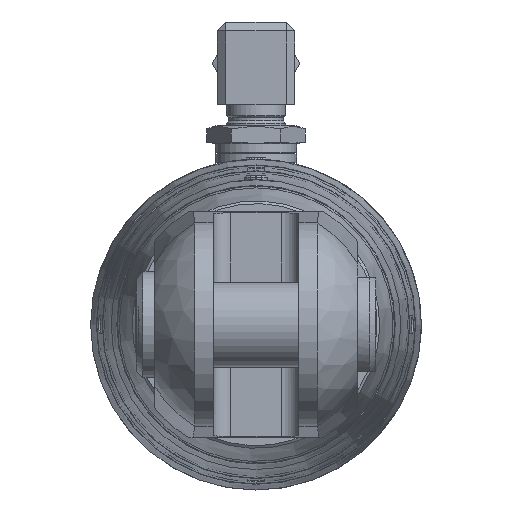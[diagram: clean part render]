
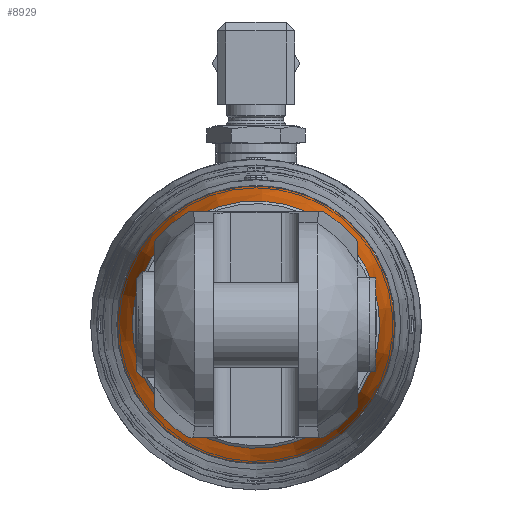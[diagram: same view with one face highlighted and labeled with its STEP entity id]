
A CAD part, left-side view. The second image highlights one B-rep face of the part: STEP entity #8929.
In plain terms, the highlighted conical face has half-angle 10 degrees and reference radius 29.424 mm.
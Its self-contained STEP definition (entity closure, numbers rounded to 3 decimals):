
#672=LINE('',#15595,#1245);
#1245=VECTOR('',#11720,29.424);
#1695=CONICAL_SURFACE('',#9757,29.424,0.175);
#2633=FACE_OUTER_BOUND('',#3165,.T.);
#3165=EDGE_LOOP('',(#7634,#7635,#7636,#7637,#7638,#7639));
#3639=CIRCLE('',#9755,31.101);
#3640=CIRCLE('',#9756,31.101);
#3641=CIRCLE('',#9758,27.748);
#3642=CIRCLE('',#9759,27.748);
#4401=VERTEX_POINT('',#15585);
#4402=VERTEX_POINT('',#15586);
#4403=VERTEX_POINT('',#15591);
#4404=VERTEX_POINT('',#15592);
#5527=EDGE_CURVE('',#4401,#4402,#3639,.T.);
#5528=EDGE_CURVE('',#4402,#4401,#3640,.T.);
#5530=EDGE_CURVE('',#4403,#4404,#3641,.T.);
#5531=EDGE_CURVE('',#4404,#4403,#3642,.T.);
#5532=EDGE_CURVE('',#4404,#4402,#672,.T.);
#7634=ORIENTED_EDGE('',*,*,#5530,.F.);
#7635=ORIENTED_EDGE('',*,*,#5531,.F.);
#7636=ORIENTED_EDGE('',*,*,#5532,.T.);
#7637=ORIENTED_EDGE('',*,*,#5527,.F.);
#7638=ORIENTED_EDGE('',*,*,#5528,.F.);
#7639=ORIENTED_EDGE('',*,*,#5532,.F.);
#8929=ADVANCED_FACE('',(#2633),#1695,.T.);
#9755=AXIS2_PLACEMENT_3D('',#15587,#11709,#11710);
#9756=AXIS2_PLACEMENT_3D('',#15588,#11711,#11712);
#9757=AXIS2_PLACEMENT_3D('',#15590,#11714,#11715);
#9758=AXIS2_PLACEMENT_3D('',#15593,#11716,#11717);
#9759=AXIS2_PLACEMENT_3D('',#15594,#11718,#11719);
#11709=DIRECTION('center_axis',(1.,0.,0.));
#11710=DIRECTION('ref_axis',(0.,0.605,0.796));
#11711=DIRECTION('center_axis',(1.,0.,0.));
#11712=DIRECTION('ref_axis',(0.,0.605,0.796));
#11714=DIRECTION('center_axis',(1.,0.,0.));
#11715=DIRECTION('ref_axis',(0.,-0.605,-0.796));
#11716=DIRECTION('center_axis',(-1.,0.,0.));
#11717=DIRECTION('ref_axis',(0.,0.605,0.796));
#11718=DIRECTION('center_axis',(-1.,0.,0.));
#11719=DIRECTION('ref_axis',(0.,0.605,0.796));
#11720=DIRECTION('',(0.985,0.105,0.138));
#15585=CARTESIAN_POINT('',(-1000.442,-18.827,-24.755));
#15586=CARTESIAN_POINT('',(-1000.442,18.827,24.755));
#15587=CARTESIAN_POINT('Origin',(-1000.442,0.,
0.));
#15588=CARTESIAN_POINT('Origin',(-1000.442,0.,
0.));
#15590=CARTESIAN_POINT('Origin',(-1009.95,0.,0.));
#15591=CARTESIAN_POINT('',(-1019.458,-16.797,-22.086));
#15592=CARTESIAN_POINT('',(-1019.458,16.797,22.086));
#15593=CARTESIAN_POINT('Origin',(-1019.458,0.,
0.));
#15594=CARTESIAN_POINT('Origin',(-1019.458,0.,
0.));
#15595=CARTESIAN_POINT('',(-1009.95,17.812,23.42));
